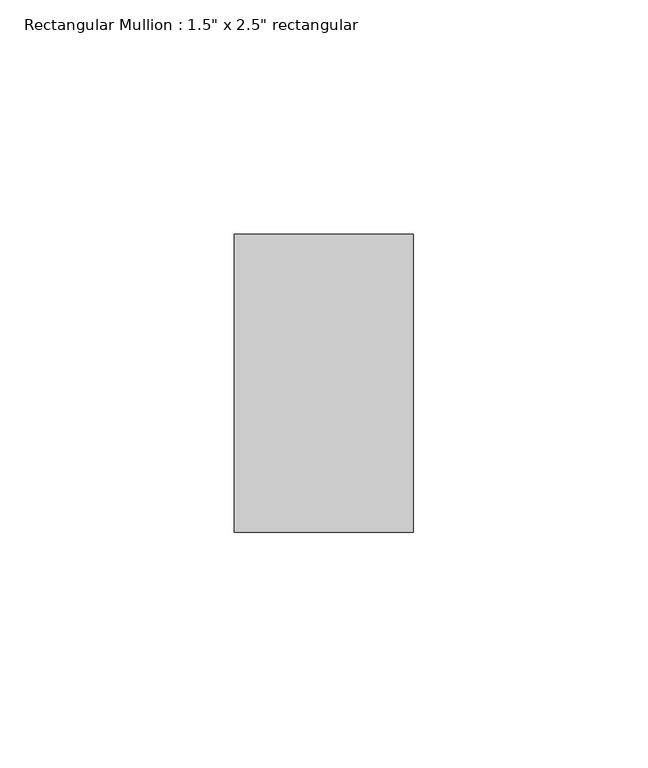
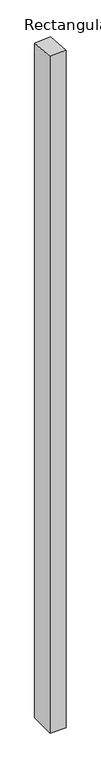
"""IFC4 building model written with IfcOpenShell, lengths in millimetres: member geometry."""

from ifc_helpers import new_model, si_unit, origin, place, context, project, spatial, faceted_brep, source, transform, mapped, element, save


def member_ff94b395(model_context):
    return source(origin(), model_context, "Body", "Brep", [
        faceted_brep([(0.0, 31.75, -1709.9625763), (0.0, -31.75, -1709.9625763), (-38.1, -31.75, -1709.9625763), (-38.1, 31.75, -1709.9625763), (-38.1, 31.75, -4.9636741), (0.0, 31.75, -2.2630452), (-38.1, -31.75, -0.4375836), (0.0, -31.75, 2.2630452)], [[[0, 1, 2, 3]], [[4, 5, 0, 3]], [[6, 4, 3, 2]], [[7, 6, 2, 1]], [[5, 7, 1, 0]], [[5, 4, 6, 7]]]),
    ])


if __name__ == "__main__":
    model = new_model("IFC4")
    model_context = context("Model", 3, world=origin())
    ifc_project = project(units=[si_unit("LENGTHUNIT", "METRE", prefix="MILLI")], contexts=[model_context])
    site = spatial("IfcSite", under=ifc_project)
    building = spatial("IfcBuilding", under=site)
    placement = place(None, origin())
    member_shape = member_ff94b395(model_context)
    element("IfcMember", 1, ObjectType="Rectangular Mullion : 1.5\" x 2.5\" rectangular", at=placement, inside=building, context=model_context, shape_type="MappedRepresentation", body=[
        mapped(member_shape, transform((0.0, 0.0, 0.0), x_axis=(1.0, 0.0, 0.0), y_axis=(0.0, 1.0, 0.0), z_axis=(0.0, 0.0, 1.0))),
    ])
    save(model, "model.ifc")
